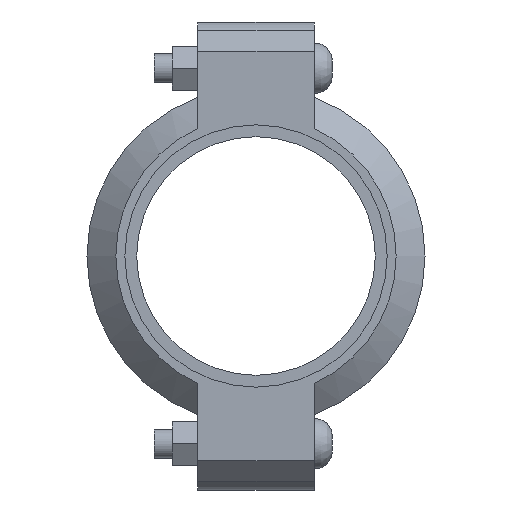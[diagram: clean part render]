
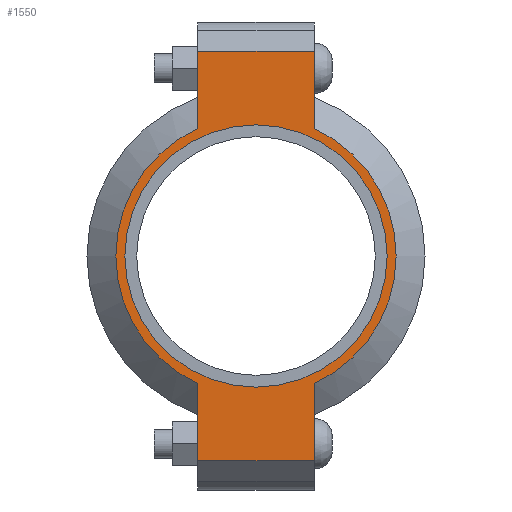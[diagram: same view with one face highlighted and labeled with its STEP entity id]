
A CAD part, left-side view. The second image highlights one B-rep face of the part: STEP entity #1550.
In plain terms, the highlighted planar face has unit normal (-1, 0, 0) as drawn and (0, 0, 1) by its records, which use the part's own axes.
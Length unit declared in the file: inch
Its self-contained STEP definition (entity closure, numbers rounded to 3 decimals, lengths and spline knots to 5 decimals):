
#174=LINE('',#2714,#267);
#182=LINE('',#2750,#275);
#189=LINE('',#2771,#282);
#198=LINE('',#2803,#291);
#199=LINE('',#2807,#292);
#200=LINE('',#2809,#293);
#267=VECTOR('',#2214,0.3937);
#275=VECTOR('',#2230,0.3937);
#282=VECTOR('',#2249,0.3937);
#291=VECTOR('',#2274,0.3937);
#292=VECTOR('',#2279,0.3937);
#293=VECTOR('',#2280,0.3937);
#349=FACE_BOUND('',#527,.T.);
#421=FACE_OUTER_BOUND('',#526,.T.);
#526=EDGE_LOOP('',(#1291,#1292,#1293,#1294,#1295,#1296,#1297,#1298));
#527=EDGE_LOOP('',(#1299));
#599=CIRCLE('',#1778,2.25);
#625=CIRCLE('',#1837,2.405);
#626=CIRCLE('',#1838,2.405);
#691=VERTEX_POINT('',#2530);
#734=VERTEX_POINT('',#2711);
#735=VERTEX_POINT('',#2713);
#746=VERTEX_POINT('',#2745);
#747=VERTEX_POINT('',#2749);
#754=VERTEX_POINT('',#2768);
#755=VERTEX_POINT('',#2770);
#765=VERTEX_POINT('',#2806);
#766=VERTEX_POINT('',#2808);
#847=EDGE_CURVE('',#691,#691,#599,.T.);
#908=EDGE_CURVE('',#735,#734,#174,.T.);
#922=EDGE_CURVE('',#747,#746,#182,.T.);
#932=EDGE_CURVE('',#755,#754,#189,.T.);
#947=EDGE_CURVE('',#747,#734,#198,.T.);
#948=EDGE_CURVE('',#746,#755,#625,.T.);
#949=EDGE_CURVE('',#765,#754,#199,.T.);
#950=EDGE_CURVE('',#765,#766,#200,.T.);
#951=EDGE_CURVE('',#766,#735,#626,.T.);
#1291=ORIENTED_EDGE('',*,*,#947,.F.);
#1292=ORIENTED_EDGE('',*,*,#922,.T.);
#1293=ORIENTED_EDGE('',*,*,#948,.T.);
#1294=ORIENTED_EDGE('',*,*,#932,.T.);
#1295=ORIENTED_EDGE('',*,*,#949,.F.);
#1296=ORIENTED_EDGE('',*,*,#950,.T.);
#1297=ORIENTED_EDGE('',*,*,#951,.T.);
#1298=ORIENTED_EDGE('',*,*,#908,.T.);
#1299=ORIENTED_EDGE('',*,*,#847,.T.);
#1392=PLANE('',#1836);
#1550=ADVANCED_FACE('',(#421,#349),#1392,.T.);
#1778=AXIS2_PLACEMENT_3D('',#2532,#2090,#2091);
#1836=AXIS2_PLACEMENT_3D('',#2804,#2275,#2276);
#1837=AXIS2_PLACEMENT_3D('',#2805,#2277,#2278);
#1838=AXIS2_PLACEMENT_3D('',#2810,#2281,#2282);
#2090=DIRECTION('center_axis',(0.,0.,-1.));
#2091=DIRECTION('ref_axis',(1.,0.,0.));
#2214=DIRECTION('',(1.,0.,0.));
#2230=DIRECTION('',(-1.,0.,0.));
#2249=DIRECTION('',(-1.,0.,0.));
#2274=DIRECTION('',(0.,-1.,0.));
#2275=DIRECTION('center_axis',(0.,0.,1.));
#2276=DIRECTION('ref_axis',(-1.,0.,0.));
#2277=DIRECTION('center_axis',(0.,0.,1.));
#2278=DIRECTION('ref_axis',(1.,0.,0.));
#2279=DIRECTION('',(0.,1.,0.));
#2280=DIRECTION('',(1.,0.,0.));
#2281=DIRECTION('center_axis',(0.,0.,1.));
#2282=DIRECTION('ref_axis',(1.,0.,0.));
#2530=CARTESIAN_POINT('',(-2.25,0.,1.065));
#2532=CARTESIAN_POINT('Origin',(0.,0.,1.065));
#2711=CARTESIAN_POINT('',(3.515,-1.,1.065));
#2713=CARTESIAN_POINT('',(2.18724,-1.,1.065));
#2714=CARTESIAN_POINT('',(4.015,-1.,1.065));
#2745=CARTESIAN_POINT('',(2.18724,1.,1.065));
#2749=CARTESIAN_POINT('',(3.515,1.,1.065));
#2750=CARTESIAN_POINT('',(-4.015,1.,1.065));
#2768=CARTESIAN_POINT('',(-3.515,1.,1.065));
#2770=CARTESIAN_POINT('',(-2.18724,1.,1.065));
#2771=CARTESIAN_POINT('',(-4.015,1.,1.065));
#2803=CARTESIAN_POINT('',(3.515,-0.5,1.065));
#2804=CARTESIAN_POINT('Origin',(0.,0.,
1.065));
#2805=CARTESIAN_POINT('Origin',(0.,0.,1.065));
#2806=CARTESIAN_POINT('',(-3.515,-1.,1.065));
#2807=CARTESIAN_POINT('',(-3.515,0.5,1.065));
#2808=CARTESIAN_POINT('',(-2.18724,-1.,1.065));
#2809=CARTESIAN_POINT('',(4.015,-1.,1.065));
#2810=CARTESIAN_POINT('Origin',(0.,0.,1.065));
